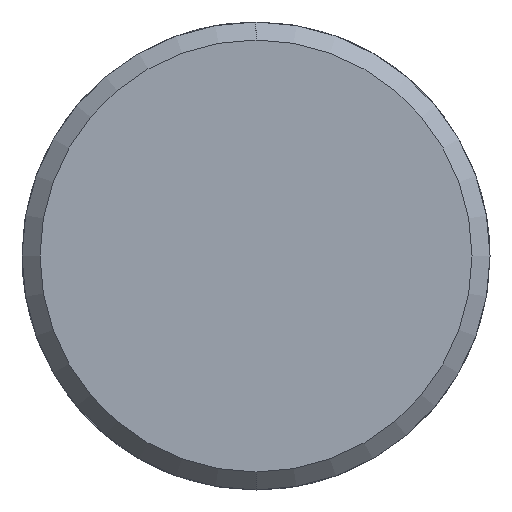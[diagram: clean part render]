
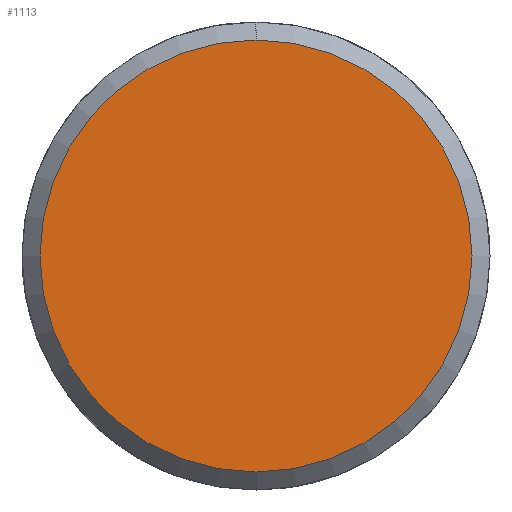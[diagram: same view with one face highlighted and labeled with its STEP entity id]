
A CAD part, left-side view. The second image highlights one B-rep face of the part: STEP entity #1113.
In plain terms, the highlighted planar face has unit normal (-1, 0, 0).
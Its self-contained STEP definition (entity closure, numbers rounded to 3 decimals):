
#1045=CARTESIAN_POINT('Vertex',(-5.,0.,-12.)) ;
#1048=CARTESIAN_POINT('Axis2P3D Location',(-5.,0.,0.)) ;
#1052=CARTESIAN_POINT('Vertex',(-5.,12.,0.)) ;
#1055=CARTESIAN_POINT('Axis2P3D Location',(-5.,0.,0.)) ;
#1059=CARTESIAN_POINT('Vertex',(-5.,0.,12.)) ;
#1081=CARTESIAN_POINT('Axis2P3D Location',(-5.,0.,0.)) ;
#1085=CARTESIAN_POINT('Vertex',(-5.,-12.,0.)) ;
#1088=CARTESIAN_POINT('Axis2P3D Location',(-5.,0.,0.)) ;
#1102=CARTESIAN_POINT('Axis2P3D Location',(-5.,0.,0.)) ;
#1049=DIRECTION('Axis2P3D Direction',(1.,0.,-0.)) ;
#1056=DIRECTION('Axis2P3D Direction',(1.,0.,-0.)) ;
#1082=DIRECTION('Axis2P3D Direction',(1.,0.,-0.)) ;
#1089=DIRECTION('Axis2P3D Direction',(1.,0.,-0.)) ;
#1103=DIRECTION('Axis2P3D Direction',(1.,0.,-0.)) ;
#1104=DIRECTION('Axis2P3D XDirection',(-0.,0.,-1.)) ;
#1050=AXIS2_PLACEMENT_3D('Circle Axis2P3D',#1048,#1049,$) ;
#1057=AXIS2_PLACEMENT_3D('Circle Axis2P3D',#1055,#1056,$) ;
#1083=AXIS2_PLACEMENT_3D('Circle Axis2P3D',#1081,#1082,$) ;
#1090=AXIS2_PLACEMENT_3D('Circle Axis2P3D',#1088,#1089,$) ;
#1105=AXIS2_PLACEMENT_3D('Plane Axis2P3D',#1102,#1103,#1104) ;
#1108=ORIENTED_EDGE('',*,*,#1054,.F.) ;
#1109=ORIENTED_EDGE('',*,*,#1092,.F.) ;
#1110=ORIENTED_EDGE('',*,*,#1087,.F.) ;
#1111=ORIENTED_EDGE('',*,*,#1061,.F.) ;
#1113=ADVANCED_FACE('351-16X36X60',(#1112),#1106,.F.) ;
#1051=CIRCLE('generated circle',#1050,12.) ;
#1058=CIRCLE('generated circle',#1057,12.) ;
#1084=CIRCLE('generated circle',#1083,12.) ;
#1091=CIRCLE('generated circle',#1090,12.) ;
#1054=EDGE_CURVE('',#1046,#1053,#1051,.T.) ;
#1061=EDGE_CURVE('',#1053,#1060,#1058,.T.) ;
#1087=EDGE_CURVE('',#1060,#1086,#1084,.T.) ;
#1092=EDGE_CURVE('',#1086,#1046,#1091,.T.) ;
#1107=EDGE_LOOP('',(#1108,#1109,#1110,#1111)) ;
#1112=FACE_OUTER_BOUND('',#1107,.T.) ;
#1106=PLANE('Plane',#1105) ;
#1046=VERTEX_POINT('',#1045) ;
#1053=VERTEX_POINT('',#1052) ;
#1060=VERTEX_POINT('',#1059) ;
#1086=VERTEX_POINT('',#1085) ;
